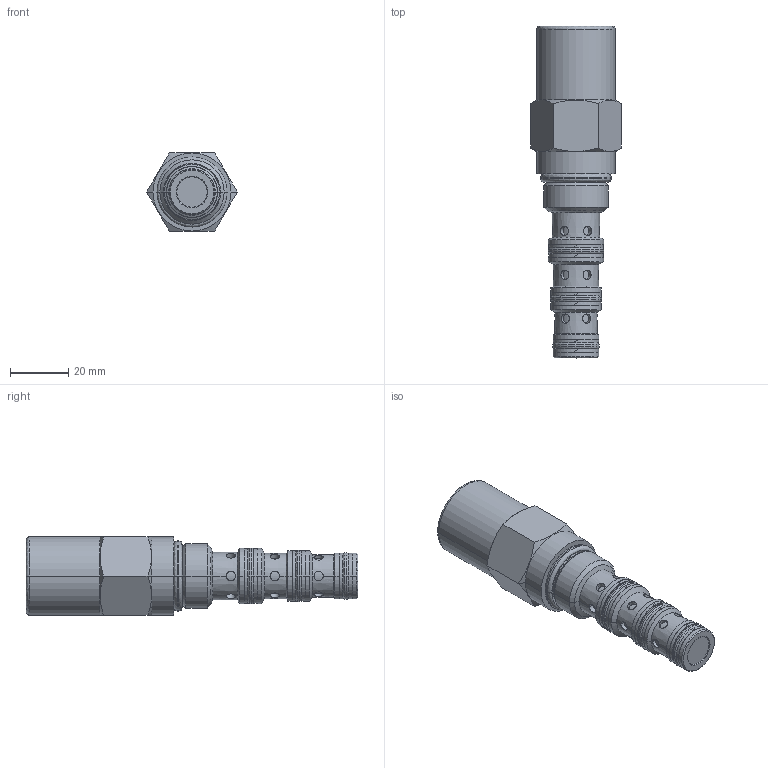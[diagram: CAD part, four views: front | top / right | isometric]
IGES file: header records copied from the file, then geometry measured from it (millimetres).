
Start section:  PTC IGES file: DCPS-10-A-T.igs
Global section: file name: DCPS-10-A-T.igs; native system: Creo Elements/Pro by Parametric Technology Corporation; preprocessor: 2015070; author: torrese; organization: Unknown; date: 20151221.145402; units: inch
Bounding box: 31.15 x 114.02 x 26.97 mm (x, y, z)
Volume: 45409.5 mm3; surface area: 10032.1 mm2
Topology: 1 solids, 1 shells, 195 faces, 432 edges, 261 vertices
Faces by surface type: revolution 159, bspline 36
